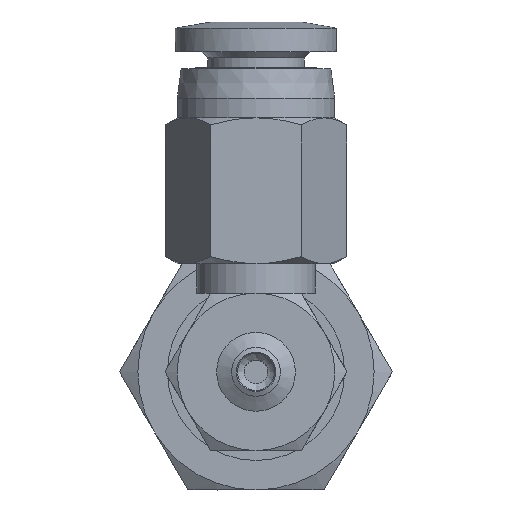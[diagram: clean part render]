
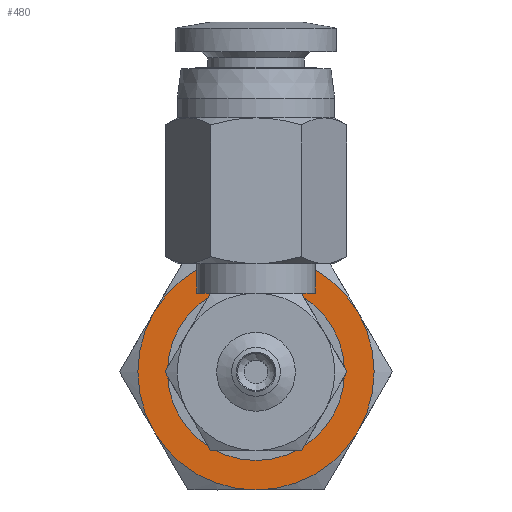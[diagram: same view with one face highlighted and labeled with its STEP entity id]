
A CAD part, front view. The second image highlights one B-rep face of the part: STEP entity #480.
In plain terms, the highlighted planar face has unit normal (0, -1, 0) as drawn and (-1, 0, 0) by its records, which use the part's own axes.
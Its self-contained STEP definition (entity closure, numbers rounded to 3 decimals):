
#480=ADVANCED_FACE('',(#676,#677),#678,.F.);
#676=FACE_BOUND('',#1079,.T.);
#677=FACE_OUTER_BOUND('',#1080,.T.);
#678=PLANE('',#1081);
#1079=EDGE_LOOP('',(#1843));
#1080=EDGE_LOOP('',(#1844,#1845,#1846,#1847,#1848,#1849));
#1081=AXIS2_PLACEMENT_3D('',#1850,#1851,#1852);
#1843=ORIENTED_EDGE('',*,*,#2799,.T.);
#1844=ORIENTED_EDGE('',*,*,#2798,.F.);
#1845=ORIENTED_EDGE('',*,*,#2771,.F.);
#1846=ORIENTED_EDGE('',*,*,#2763,.F.);
#1847=ORIENTED_EDGE('',*,*,#2790,.F.);
#1848=ORIENTED_EDGE('',*,*,#2793,.F.);
#1849=ORIENTED_EDGE('',*,*,#2801,.F.);
#1850=CARTESIAN_POINT('',(0.,0.0,0.0));
#1851=DIRECTION('',(1.0,0.0,0.0));
#1852=DIRECTION('',(0.0,1.0,0.0));
#2763=EDGE_CURVE('',#3075,#3076,#3077,.T.);
#2771=EDGE_CURVE('',#3076,#3090,#3091,.T.);
#2790=EDGE_CURVE('',#3123,#3075,#3124,.T.);
#2793=EDGE_CURVE('',#3110,#3123,#3127,.T.);
#2798=EDGE_CURVE('',#3090,#3131,#3134,.T.);
#2799=EDGE_CURVE('',#3135,#3135,#3136,.T.);
#2801=EDGE_CURVE('',#3131,#3110,#3139,.T.);
#3075=VERTEX_POINT('',#3595);
#3076=VERTEX_POINT('',#3596);
#3077=CIRCLE('',#3597,6.0);
#3090=VERTEX_POINT('',#3662);
#3091=CIRCLE('',#3663,6.0);
#3110=VERTEX_POINT('',#3745);
#3123=VERTEX_POINT('',#3819);
#3124=CIRCLE('',#3820,6.0);
#3127=CIRCLE('',#3843,6.0);
#3131=VERTEX_POINT('',#3867);
#3134=CIRCLE('',#3890,6.0);
#3135=VERTEX_POINT('',#3891);
#3136=CIRCLE('',#3892,4.0);
#3139=CIRCLE('',#3895,6.0);
#3595=CARTESIAN_POINT('',(0.,-5.196,-3.0));
#3596=CARTESIAN_POINT('',(0.,0.0,-6.0));
#3597=AXIS2_PLACEMENT_3D('',#4770,#4771,#4772);
#3662=CARTESIAN_POINT('',(0.,5.196,-3.0));
#3663=AXIS2_PLACEMENT_3D('',#4775,#4776,#4777);
#3745=CARTESIAN_POINT('',(0.,0.0,6.0));
#3819=CARTESIAN_POINT('',(0.,-5.196,3.0));
#3820=AXIS2_PLACEMENT_3D('',#4788,#4789,#4790);
#3843=AXIS2_PLACEMENT_3D('',#4791,#4792,#4793);
#3867=CARTESIAN_POINT('',(0.,5.196,3.0));
#3890=AXIS2_PLACEMENT_3D('',#4794,#4795,#4796);
#3891=CARTESIAN_POINT('',(0.,0.0,-4.0));
#3892=AXIS2_PLACEMENT_3D('',#4797,#4798,#4799);
#3895=AXIS2_PLACEMENT_3D('',#4803,#4804,#4805);
#4770=CARTESIAN_POINT('',(0.,0.0,0.0));
#4771=DIRECTION('',(1.0,0.0,0.0));
#4772=DIRECTION('',(0.0,0.0,-1.0));
#4775=CARTESIAN_POINT('',(0.,0.0,0.0));
#4776=DIRECTION('',(1.0,0.0,0.0));
#4777=DIRECTION('',(0.0,0.0,-1.0));
#4788=CARTESIAN_POINT('',(0.,0.0,0.0));
#4789=DIRECTION('',(1.0,0.0,0.0));
#4790=DIRECTION('',(0.0,0.0,-1.0));
#4791=CARTESIAN_POINT('',(0.,0.0,0.0));
#4792=DIRECTION('',(1.0,0.0,0.0));
#4793=DIRECTION('',(0.0,0.0,-1.0));
#4794=CARTESIAN_POINT('',(0.,0.0,0.0));
#4795=DIRECTION('',(1.0,0.0,0.0));
#4796=DIRECTION('',(0.0,0.0,-1.0));
#4797=CARTESIAN_POINT('',(0.,0.0,0.0));
#4798=DIRECTION('',(1.0,0.0,0.0));
#4799=DIRECTION('',(0.0,0.0,-1.0));
#4803=CARTESIAN_POINT('',(0.,0.0,0.0));
#4804=DIRECTION('',(1.0,0.0,0.0));
#4805=DIRECTION('',(0.0,0.0,-1.0));
